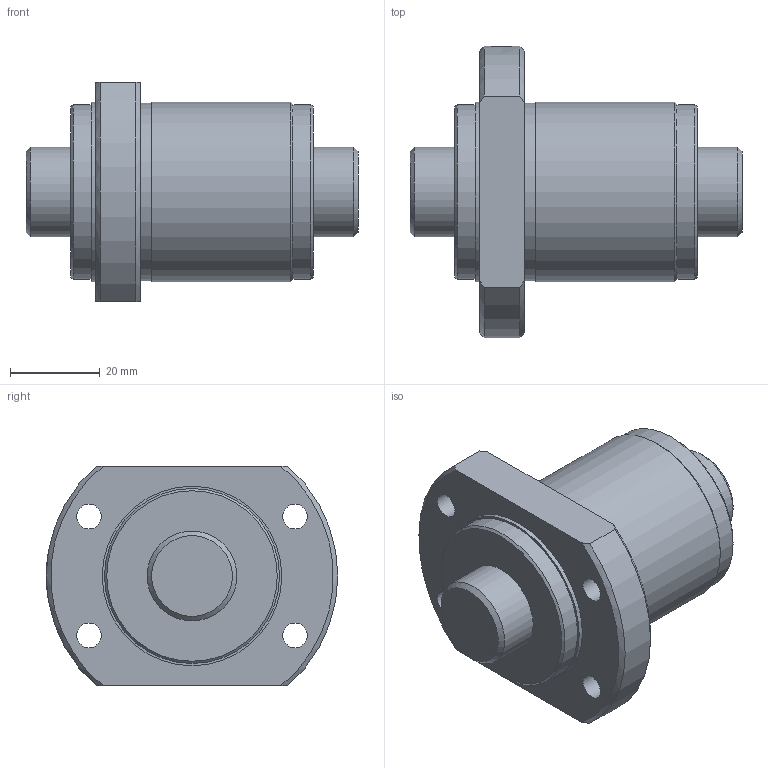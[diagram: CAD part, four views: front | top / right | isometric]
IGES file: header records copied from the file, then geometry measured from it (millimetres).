
Start section: Data from Parasolid IGES Translator 26.0.171, Copyright(c) 2006 Siemens PLM Software. All Rights Reserved.
Global section: file name: SBK2020-3.6RRG0+74LC0(0000).igs; native system: By Siemens PLM Incorporated; preprocessor: XPlus GENERIC/IGES 26.0.171; author: Noname; organization: Noname; date: 20240528.111935; units: millimetre
Bounding box: 74 x 65 x 49 mm (x, y, z)
Surface area: 21664.1 mm2 (no closed solid volume)
Topology: 0 solids, 0 shells, 35 faces, 159 edges, 134 vertices
Faces by surface type: revolution 25, extrusion 10
